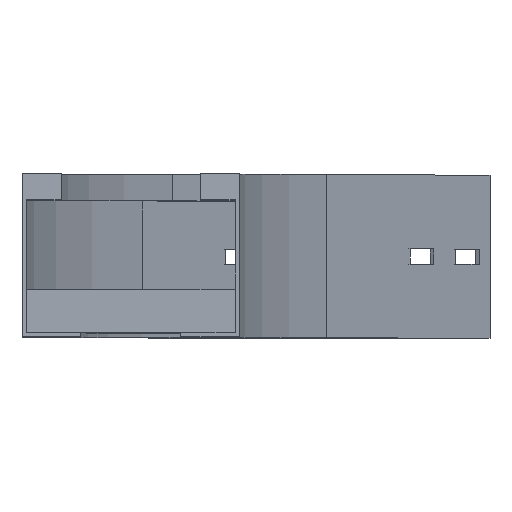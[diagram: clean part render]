
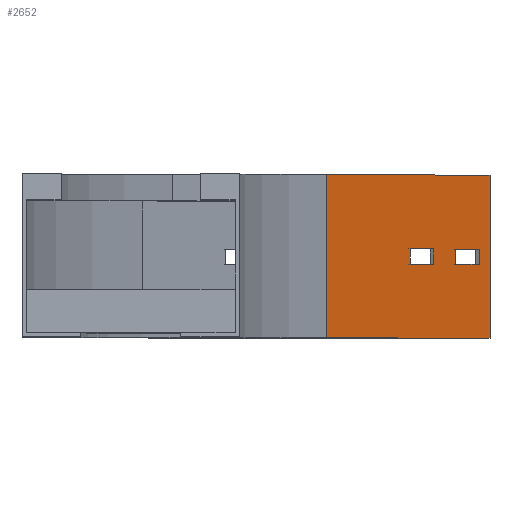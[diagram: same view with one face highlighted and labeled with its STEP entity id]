
A CAD part, top view. The second image highlights one B-rep face of the part: STEP entity #2652.
In plain terms, the highlighted planar face has unit normal (0.866, 0, 0.5).
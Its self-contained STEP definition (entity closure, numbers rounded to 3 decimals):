
#8 = VERTEX_POINT ( 'NONE', #2073 ) ;
#11 = VERTEX_POINT ( 'NONE', #600 ) ;
#42 = DIRECTION ( 'NONE',  ( 0.5, 0., -0.866 ) ) ;
#44 = VECTOR ( 'NONE', #1197, 1000. ) ;
#50 = VERTEX_POINT ( 'NONE', #2668 ) ;
#122 = CARTESIAN_POINT ( 'NONE',  ( 40.192, 0., -300. ) ) ;
#135 = EDGE_CURVE ( 'NONE', #213, #3494, #2218, .T. ) ;
#151 = FACE_BOUND ( 'NONE', #3741, .T. ) ;
#194 = ORIENTED_EDGE ( 'NONE', *, *, #771, .F. ) ;
#205 = CARTESIAN_POINT ( 'NONE',  ( 110.275, 41., -421.386 ) ) ;
#213 = VERTEX_POINT ( 'NONE', #3817 ) ;
#226 = ORIENTED_EDGE ( 'NONE', *, *, #357, .T. ) ;
#255 = VECTOR ( 'NONE', #1662, 1000. ) ;
#318 = CARTESIAN_POINT ( 'NONE',  ( 40.192, 0., -300. ) ) ;
#334 = CARTESIAN_POINT ( 'NONE',  ( 110.275, 41., -421.386 ) ) ;
#357 = EDGE_CURVE ( 'NONE', #2104, #11, #1646, .T. ) ;
#399 = EDGE_CURVE ( 'NONE', #1316, #614, #3715, .T. ) ;
#415 = EDGE_CURVE ( 'NONE', #3494, #1316, #2222, .T. ) ;
#437 = EDGE_LOOP ( 'NONE', ( #3312, #194, #2196, #226 ) ) ;
#487 = CARTESIAN_POINT ( 'NONE',  ( 99.275, 41., -402.334 ) ) ;
#512 = DIRECTION ( 'NONE',  ( 0., 1., 0. ) ) ;
#574 = VERTEX_POINT ( 'NONE', #487 ) ;
#578 = DIRECTION ( 'NONE',  ( 0., 1., 0. ) ) ;
#588 = EDGE_LOOP ( 'NONE', ( #1796, #1745, #3388, #1433 ) ) ;
#600 = CARTESIAN_POINT ( 'NONE',  ( 115.192, 75., -429.904 ) ) ;
#614 = VERTEX_POINT ( 'NONE', #3102 ) ;
#723 = DIRECTION ( 'NONE',  ( -0.5, 0., 0.866 ) ) ;
#730 = VECTOR ( 'NONE', #1925, 1000. ) ;
#770 = CARTESIAN_POINT ( 'NONE',  ( 40.192, 0., -300. ) ) ;
#771 = EDGE_CURVE ( 'NONE', #1223, #50, #2047, .T. ) ;
#790 = DIRECTION ( 'NONE',  ( 0.5, 0., -0.866 ) ) ;
#814 = PLANE ( 'NONE',  #2848 ) ;
#877 = VECTOR ( 'NONE', #2604, 1000. ) ;
#968 = CARTESIAN_POINT ( 'NONE',  ( 89.44, 34., -385.299 ) ) ;
#1046 = VECTOR ( 'NONE', #578, 1000. ) ;
#1177 = LINE ( 'NONE', #1716, #44 ) ;
#1197 = DIRECTION ( 'NONE',  ( 0., -1., 0. ) ) ;
#1223 = VERTEX_POINT ( 'NONE', #318 ) ;
#1316 = VERTEX_POINT ( 'NONE', #2724 ) ;
#1327 = ORIENTED_EDGE ( 'NONE', *, *, #1594, .F. ) ;
#1330 = CARTESIAN_POINT ( 'NONE',  ( 89.44, 34., -385.299 ) ) ;
#1362 = CARTESIAN_POINT ( 'NONE',  ( 89.44, 41., -385.299 ) ) ;
#1374 = CARTESIAN_POINT ( 'NONE',  ( 115.192, 0., -429.904 ) ) ;
#1410 = ORIENTED_EDGE ( 'NONE', *, *, #415, .F. ) ;
#1427 = EDGE_CURVE ( 'NONE', #50, #11, #2701, .T. ) ;
#1433 = ORIENTED_EDGE ( 'NONE', *, *, #1440, .F. ) ;
#1440 = EDGE_CURVE ( 'NONE', #3781, #8, #2534, .T. ) ;
#1452 = DIRECTION ( 'NONE',  ( 0., -1., 0. ) ) ;
#1537 = VECTOR ( 'NONE', #512, 1000. ) ;
#1594 = EDGE_CURVE ( 'NONE', #614, #213, #1177, .T. ) ;
#1600 = CARTESIAN_POINT ( 'NONE',  ( 110.275, 41., -421.386 ) ) ;
#1646 = LINE ( 'NONE', #1886, #730 ) ;
#1662 = DIRECTION ( 'NONE',  ( 0.5, 0., -0.866 ) ) ;
#1716 = CARTESIAN_POINT ( 'NONE',  ( 78.44, 41., -366.247 ) ) ;
#1745 = ORIENTED_EDGE ( 'NONE', *, *, #1979, .F. ) ;
#1796 = ORIENTED_EDGE ( 'NONE', *, *, #2048, .F. ) ;
#1857 = CARTESIAN_POINT ( 'NONE',  ( 40.192, 75., -300. ) ) ;
#1886 = CARTESIAN_POINT ( 'NONE',  ( 115.192, 0., -429.904 ) ) ;
#1909 = DIRECTION ( 'NONE',  ( -0.5, 0., 0.866 ) ) ;
#1925 = DIRECTION ( 'NONE',  ( 0., 1., 0. ) ) ;
#1979 = EDGE_CURVE ( 'NONE', #3479, #574, #2824, .T. ) ;
#1980 = CARTESIAN_POINT ( 'NONE',  ( 99.275, 41., -402.334 ) ) ;
#2047 = LINE ( 'NONE', #2330, #1046 ) ;
#2048 = EDGE_CURVE ( 'NONE', #574, #3781, #2618, .T. ) ;
#2073 = CARTESIAN_POINT ( 'NONE',  ( 110.275, 34., -421.386 ) ) ;
#2104 = VERTEX_POINT ( 'NONE', #1374 ) ;
#2119 = ORIENTED_EDGE ( 'NONE', *, *, #135, .F. ) ;
#2178 = LINE ( 'NONE', #122, #255 ) ;
#2196 = ORIENTED_EDGE ( 'NONE', *, *, #3465, .T. ) ;
#2218 = LINE ( 'NONE', #968, #3668 ) ;
#2222 = LINE ( 'NONE', #3194, #1537 ) ;
#2276 = VECTOR ( 'NONE', #1452, 1000. ) ;
#2330 = CARTESIAN_POINT ( 'NONE',  ( 40.192, 0., -300. ) ) ;
#2470 = DIRECTION ( 'NONE',  ( -0.5, 0., 0.866 ) ) ;
#2508 = VECTOR ( 'NONE', #790, 1000. ) ;
#2534 = LINE ( 'NONE', #2835, #2508 ) ;
#2604 = DIRECTION ( 'NONE',  ( 0., 1., 0. ) ) ;
#2618 = LINE ( 'NONE', #1980, #2276 ) ;
#2652 = ADVANCED_FACE ( 'NONE', ( #3472, #151, #3740 ), #814, .F. ) ;
#2668 = CARTESIAN_POINT ( 'NONE',  ( 40.192, 75., -300. ) ) ;
#2701 = LINE ( 'NONE', #1857, #3396 ) ;
#2724 = CARTESIAN_POINT ( 'NONE',  ( 89.44, 41., -385.299 ) ) ;
#2819 = DIRECTION ( 'NONE',  ( 0.5, 0., -0.866 ) ) ;
#2822 = EDGE_CURVE ( 'NONE', #8, #3479, #3001, .T. ) ;
#2824 = LINE ( 'NONE', #205, #3829 ) ;
#2835 = CARTESIAN_POINT ( 'NONE',  ( 110.275, 34., -421.386 ) ) ;
#2848 = AXIS2_PLACEMENT_3D ( 'NONE', #770, #3760, #1909 ) ;
#3001 = LINE ( 'NONE', #334, #877 ) ;
#3102 = CARTESIAN_POINT ( 'NONE',  ( 78.44, 41., -366.247 ) ) ;
#3194 = CARTESIAN_POINT ( 'NONE',  ( 89.44, 41., -385.299 ) ) ;
#3303 = VECTOR ( 'NONE', #723, 1000. ) ;
#3312 = ORIENTED_EDGE ( 'NONE', *, *, #1427, .F. ) ;
#3356 = CARTESIAN_POINT ( 'NONE',  ( 99.275, 34., -402.334 ) ) ;
#3388 = ORIENTED_EDGE ( 'NONE', *, *, #2822, .F. ) ;
#3396 = VECTOR ( 'NONE', #42, 1000. ) ;
#3465 = EDGE_CURVE ( 'NONE', #1223, #2104, #2178, .T. ) ;
#3472 = FACE_BOUND ( 'NONE', #588, .T. ) ;
#3479 = VERTEX_POINT ( 'NONE', #1600 ) ;
#3494 = VERTEX_POINT ( 'NONE', #1330 ) ;
#3581 = ORIENTED_EDGE ( 'NONE', *, *, #399, .F. ) ;
#3668 = VECTOR ( 'NONE', #2819, 1000. ) ;
#3715 = LINE ( 'NONE', #1362, #3303 ) ;
#3740 = FACE_OUTER_BOUND ( 'NONE', #437, .T. ) ;
#3741 = EDGE_LOOP ( 'NONE', ( #3581, #1410, #2119, #1327 ) ) ;
#3760 = DIRECTION ( 'NONE',  ( -0.866, 0., -0.5 ) ) ;
#3781 = VERTEX_POINT ( 'NONE', #3356 ) ;
#3817 = CARTESIAN_POINT ( 'NONE',  ( 78.44, 34., -366.247 ) ) ;
#3829 = VECTOR ( 'NONE', #2470, 1000. ) ;
